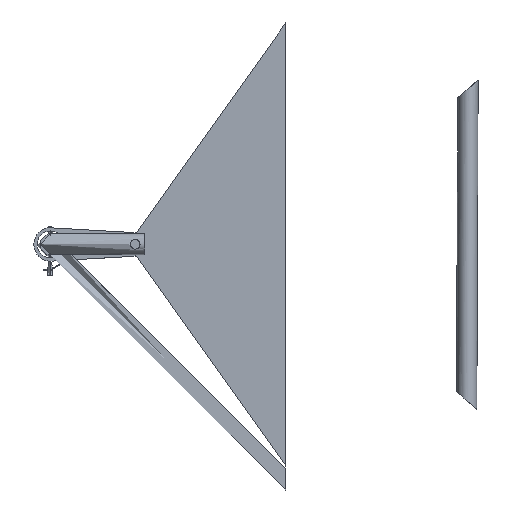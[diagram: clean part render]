
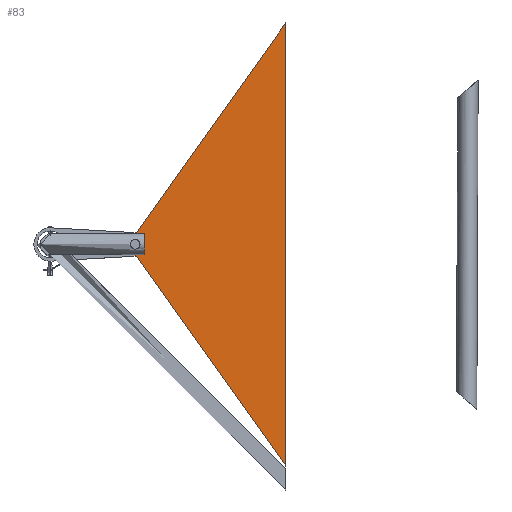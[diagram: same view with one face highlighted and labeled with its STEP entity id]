
A CAD part, top view. The second image highlights one B-rep face of the part: STEP entity #83.
In plain terms, the highlighted planar face has unit normal (0, 0, 1).
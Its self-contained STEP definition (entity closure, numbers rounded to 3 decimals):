
#43=FACE_BOUND('',#240,.T.);
#83=ADVANCED_FACE('',(#160,#43),#1023,.T.);
#160=FACE_OUTER_BOUND('',#239,.T.);
#239=EDGE_LOOP('',(#413,#414));
#240=EDGE_LOOP('',(#415,#416));
#413=ORIENTED_EDGE('',*,*,#711,.F.);
#414=ORIENTED_EDGE('',*,*,#719,.F.);
#415=ORIENTED_EDGE('',*,*,#722,.T.);
#416=ORIENTED_EDGE('',*,*,#700,.T.);
#700=EDGE_CURVE('',#936,#939,#851,.T.);
#711=EDGE_CURVE('',#947,#946,#856,.T.);
#719=EDGE_CURVE('',#946,#947,#860,.T.);
#722=EDGE_CURVE('',#939,#936,#863,.T.);
#851=(
BOUNDED_CURVE()
B_SPLINE_CURVE(2,(#5000,#5001,#5002,#5003,#5004),.UNSPECIFIED.,.F.,.F.)
B_SPLINE_CURVE_WITH_KNOTS((3,2,3),(0.,1.571,3.142),
 .UNSPECIFIED.)
CURVE()
GEOMETRIC_REPRESENTATION_ITEM()
RATIONAL_B_SPLINE_CURVE((1.,0.707,1.,0.707,1.))
REPRESENTATION_ITEM('')
);
#856=(
BOUNDED_CURVE()
B_SPLINE_CURVE(2,(#5037,#5038,#5039,#5040,#5041),.UNSPECIFIED.,.F.,.F.)
B_SPLINE_CURVE_WITH_KNOTS((3,2,3),(1.,2.571,4.142),
 .UNSPECIFIED.)
CURVE()
GEOMETRIC_REPRESENTATION_ITEM()
RATIONAL_B_SPLINE_CURVE((1.,0.707,1.,0.707,1.))
REPRESENTATION_ITEM('')
);
#860=(
BOUNDED_CURVE()
B_SPLINE_CURVE(2,(#5065,#5066,#5067,#5068,#5069),.UNSPECIFIED.,.F.,.F.)
B_SPLINE_CURVE_WITH_KNOTS((3,2,3),(0.,1.571,3.142),
 .UNSPECIFIED.)
CURVE()
GEOMETRIC_REPRESENTATION_ITEM()
RATIONAL_B_SPLINE_CURVE((1.,0.707,1.,0.707,1.))
REPRESENTATION_ITEM('')
);
#863=(
BOUNDED_CURVE()
B_SPLINE_CURVE(2,(#5080,#5081,#5082,#5083,#5084),.UNSPECIFIED.,.F.,.F.)
B_SPLINE_CURVE_WITH_KNOTS((3,2,3),(1.,2.571,4.142),
 .UNSPECIFIED.)
CURVE()
GEOMETRIC_REPRESENTATION_ITEM()
RATIONAL_B_SPLINE_CURVE((1.,0.707,1.,0.707,1.))
REPRESENTATION_ITEM('')
);
#936=VERTEX_POINT('',#4974);
#939=VERTEX_POINT('',#4977);
#946=VERTEX_POINT('',#4984);
#947=VERTEX_POINT('',#4985);
#1023=PLANE('',#1313);
#1313=AXIS2_PLACEMENT_3D('',#4893,#1360,$);
#1360=DIRECTION('',(0.,0.,1.));
#4893=CARTESIAN_POINT('',(493.254,490.895,539.065));
#4974=CARTESIAN_POINT('',(105.,248.641,539.065));
#4977=CARTESIAN_POINT('',(105.,268.641,539.065));
#4984=CARTESIAN_POINT('',(261.,29.141,539.065));
#4985=CARTESIAN_POINT('',(261.,488.141,539.065));
#5000=CARTESIAN_POINT('',(105.,248.641,539.065));
#5001=CARTESIAN_POINT('',(95.,248.641,539.065));
#5002=CARTESIAN_POINT('',(95.,258.641,539.065));
#5003=CARTESIAN_POINT('',(95.,268.641,539.065));
#5004=CARTESIAN_POINT('',(105.,268.641,539.065));
#5037=CARTESIAN_POINT('',(261.,488.141,539.065));
#5038=CARTESIAN_POINT('',(490.5,488.141,539.065));
#5039=CARTESIAN_POINT('',(490.5,258.641,539.065));
#5040=CARTESIAN_POINT('',(490.5,29.141,539.065));
#5041=CARTESIAN_POINT('',(261.,29.141,539.065));
#5065=CARTESIAN_POINT('',(261.,29.141,539.065));
#5066=CARTESIAN_POINT('',(31.5,29.141,539.065));
#5067=CARTESIAN_POINT('',(31.5,258.641,539.065));
#5068=CARTESIAN_POINT('',(31.5,488.141,539.065));
#5069=CARTESIAN_POINT('',(261.,488.141,539.065));
#5080=CARTESIAN_POINT('',(105.,268.641,539.065));
#5081=CARTESIAN_POINT('',(115.,268.641,539.065));
#5082=CARTESIAN_POINT('',(115.,258.641,539.065));
#5083=CARTESIAN_POINT('',(115.,248.641,539.065));
#5084=CARTESIAN_POINT('',(105.,248.641,539.065));
